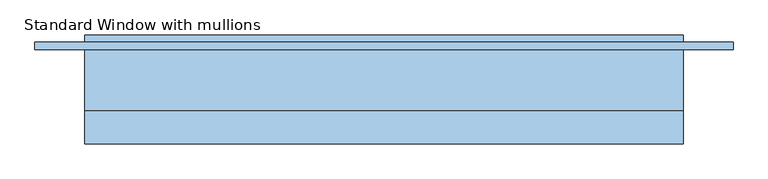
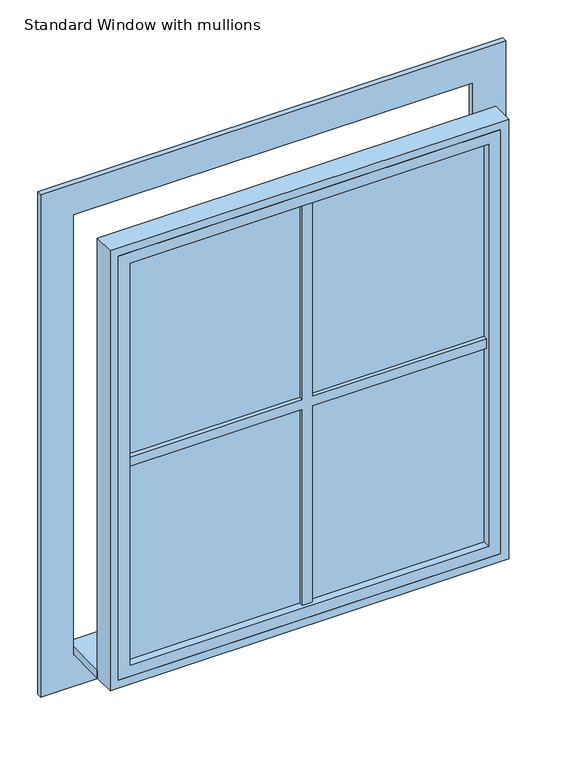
"""IFC4 building model written with IfcOpenShell, lengths in millimetres: window geometry, Standard Window with mullions : 1200/1400."""

from ifc_helpers import new_model, si_unit, frame, origin, place, context, project, spatial, polyline, outline, extrude, source, transform, mapped, element, save


def standard_window_with_mullions_80486b60(model_context):
    return source(origin(), model_context, "Body", "SweptSolid", [
        extrude(outline(polyline([(600.0, 26.9623738), (-600.0, 26.9623738), (-600.0, 180.0), (600.0, 180.0), (600.0, 26.9623738)])), frame((0.0, 0.0, 1000.0), z_axis=(0.0, 0.0, 1.0), x_axis=(1.0, 0.0, 0.0)), (0.0, 0.0, 1.0), 25.0),
        extrude(outline(polyline([(2500.0, -700.0), (900.0, -700.0), (900.0, 700.0), (2500.0, 700.0), (2500.0, -700.0)]), holes=[polyline([(2400.0, -600.0), (2400.0, 600.0), (1000.0, 600.0), (1000.0, -600.0), (2400.0, -600.0)])]), frame((0.0, 150.0, 0.0), z_axis=(0.0, 1.0, 0.0), x_axis=(0.0, 0.0, 1.0)), (0.0, 0.0, 1.0), 15.0),
        extrude(outline(polyline([(2375.0, -575.0), (1025.0, -575.0), (1025.0, 575.0), (2375.0, 575.0), (2375.0, -575.0)]), holes=[polyline([(2340.0, -540.0), (2340.0, 540.0), (1060.0, 540.0), (1060.0, -540.0), (2340.0, -540.0)])]), frame((0.0, -39.0188131, 0.0), z_axis=(0.0, 1.0, 0.0), x_axis=(0.0, 0.0, 1.0)), (0.0, 0.0, 1.0), 50.5),
        extrude(outline(polyline([(1000.0, -600.0), (1000.0, 600.0), (2400.0, 600.0), (2400.0, -600.0), (1000.0, -600.0)]), holes=[polyline([(1025.0, -575.0), (2375.0, -575.0), (2375.0, 575.0), (1025.0, 575.0), (1025.0, -575.0)])]), frame((0.0, -39.0188131, 0.0), z_axis=(0.0, 1.0, 0.0), x_axis=(0.0, 0.0, 1.0)), (0.0, 0.0, 1.0), 65.9811869),
        extrude(outline(polyline([(1715.0, 540.0), (1715.0, 15.0), (2340.0, 15.0), (2340.0, -15.0), (1715.0, -15.0), (1715.0, -540.0), (1685.0, -540.0), (1685.0, -15.0), (1060.0, -15.0), (1060.0, 15.0), (1685.0, 15.0), (1685.0, 540.0), (1715.0, 540.0)])), frame((0.0, -28.5188131, 0.0), z_axis=(0.0, 1.0, 0.0), x_axis=(0.0, 0.0, 1.0)), (0.0, 0.0, 1.0), 20.0),
        extrude(outline(polyline([(540.0, -15.5188131), (-540.0, -15.5188131), (-540.0, -13.5188131), (540.0, -13.5188131), (540.0, -15.5188131)])), frame((0.0, 0.0, 1060.0), z_axis=(0.0, 0.0, 1.0), x_axis=(1.0, 0.0, 0.0)), (0.0, 0.0, 1.0), 1280.0),
    ])


if __name__ == "__main__":
    model = new_model("IFC4")
    model_context = context("Model", 3, world=origin())
    ifc_project = project(units=[si_unit("LENGTHUNIT", "METRE", prefix="MILLI")], contexts=[model_context])
    site = spatial("IfcSite", under=ifc_project)
    building = spatial("IfcBuilding", under=site)
    placement = place(None, origin())
    standard_window_with_mullions_shape = standard_window_with_mullions_80486b60(model_context)
    element("IfcWindow", 1, ObjectType="Standard Window with mullions : 1200/1400", at=placement, inside=building, context=model_context, shape_type="MappedRepresentation", body=[
        mapped(standard_window_with_mullions_shape, transform((0.0, 0.0, 0.0), x_axis=(1.0, 0.0, 0.0), y_axis=(0.0, 1.0, 0.0), z_axis=(0.0, 0.0, 1.0))),
    ])
    save(model, "model.ifc")
